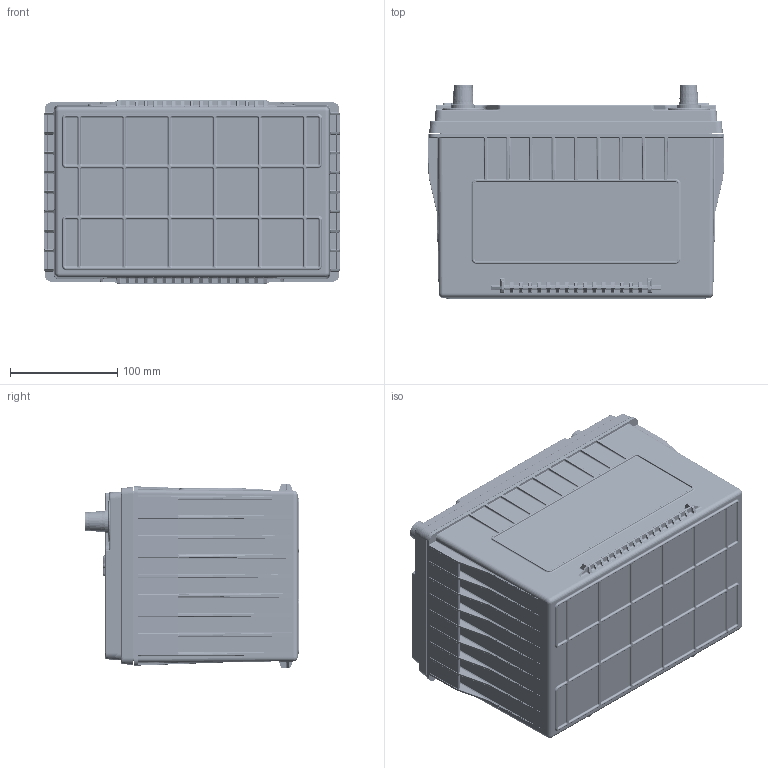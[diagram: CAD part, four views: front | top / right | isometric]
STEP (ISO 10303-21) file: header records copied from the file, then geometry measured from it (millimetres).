
FILE_DESCRIPTION (( 'STEP AP203' ), '1' );
FILE_NAME ('ODX-AGM34.STEP', '2024-04-15T14:19:10', ( '' ), ( '' ), 'SwSTEP 2.0', 'SolidWorks 2022', '' );
FILE_SCHEMA (( 'CONFIG_CONTROL_DESIGN' ));
Products named in the file (1): ODX-AGM34
Bounding box: 275.53 x 200.1 x 171.81 mm (x, y, z)
Volume: 1287658 mm3; surface area: 996292.8 mm2
Topology: 13 solids, 13 shells, 7283 faces, 18040 edges, 10525 vertices
Faces by surface type: cylinder 2903, plane 2152, bspline 1089, torus 481, sphere 400, cone 258
Full cylindrical faces by diameter (mm): 3.175 x32, 3.81 x1, 6.35 x2, 7.62 x1, 8.001 x6, 10.8 x2, 12 x36, 19.05 x2, 20.218 x2, 22.225 x2, 22.86 x2, 24.282 x2, 31.344 x2, 31.648 x2
Entity records: 239880 total; most frequent: CARTESIAN_POINT 84580, ORIENTED_EDGE 34596, DIRECTION 30410, EDGE_CURVE 17298, AXIS2_PLACEMENT_3D 11060, VERTEX_POINT 10357, VECTOR 8290, LINE 8290
